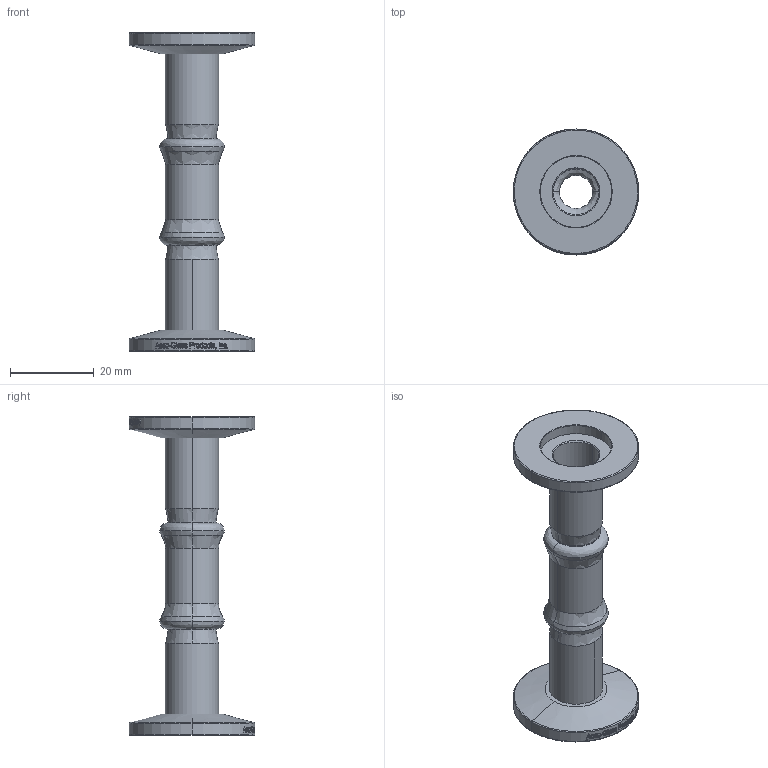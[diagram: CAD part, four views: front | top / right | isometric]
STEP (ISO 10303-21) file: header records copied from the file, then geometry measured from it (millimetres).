
FILE_DESCRIPTION (( 'STEP AP203' ), '1' );
FILE_NAME ('211058.stp', '2018-05-17T16:33:47', ( '' ), ( '' ), 'SwSTEP 2.0', 'SolidWorks 2012', '' );
FILE_SCHEMA (( 'CONFIG_CONTROL_DESIGN' ));
Length unit declared in the file: centimetre
Products named in the file (1): 211058
Bounding box: 29.97 x 29.97 x 76.2 mm (x, y, z)
Volume: 7124.6 mm3; surface area: 8459.6 mm2
Topology: 1 solids, 1 shells, 649 faces, 1703 edges, 1114 vertices
Faces by surface type: bspline 310, plane 234, cylinder 93, cone 12
Entity records: 67874 total; most frequent: CARTESIAN_POINT 54165, ORIENTED_EDGE 3398, DIRECTION 1857, EDGE_CURVE 1699, VERTEX_POINT 1114, B_SPLINE_CURVE_WITH_KNOTS 738, EDGE_LOOP 713, FACE_OUTER_BOUND 649
